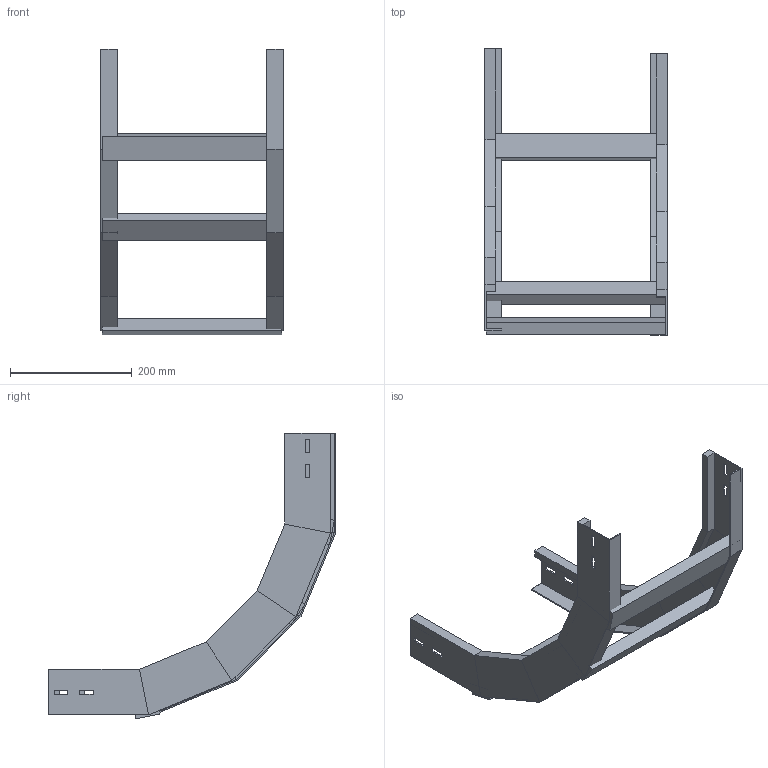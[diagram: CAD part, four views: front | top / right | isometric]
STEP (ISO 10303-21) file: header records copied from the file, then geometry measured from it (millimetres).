
FILE_DESCRIPTION (( 'STEP AP214' ), '1' );
FILE_NAME ('A2X30B3C300XX.step', '2025-04-02T08:41:16', ( '' ), ( '' ), 'SwSTEP 2.0', 'SolidWorks 2023', '' );
FILE_SCHEMA (( 'AUTOMOTIVE_DESIGN' ));
Length unit declared in the file: millimetre
Products named in the file (3): A2X30B3C300XX; TRAVERSINO_300; LONGH.SALITA_90°_H75_R300
Assembly tree (5 placements, depth 2):
  A2X30B3C300XX
    LONGH.SALITA_90°_H75_R300  x2
    TRAVERSINO_300  x3
Bounding box: 300 x 472.38 x 470.38 mm (x, y, z)
Volume: 1264191.7 mm3; surface area: 452574.2 mm2
Topology: 5 solids, 5 shells, 134 faces, 308 edges, 184 vertices
Faces by surface type: plane 134
Entity records: 1864 total; most frequent: CARTESIAN_POINT 308, ORIENTED_EDGE 296, DIRECTION 292, LINE 148, EDGE_CURVE 148, VECTOR 148, VERTEX_POINT 88, AXIS2_PLACEMENT_3D 72
